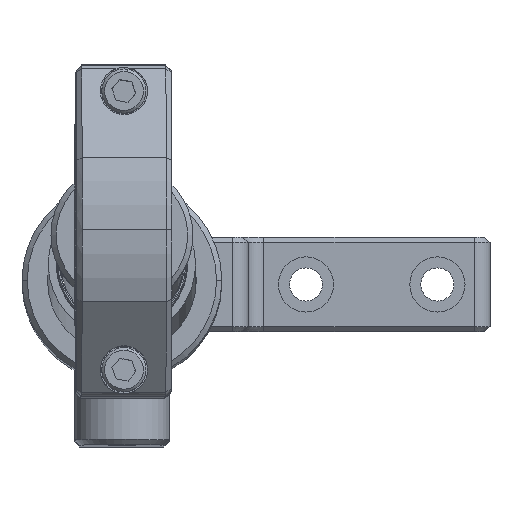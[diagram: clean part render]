
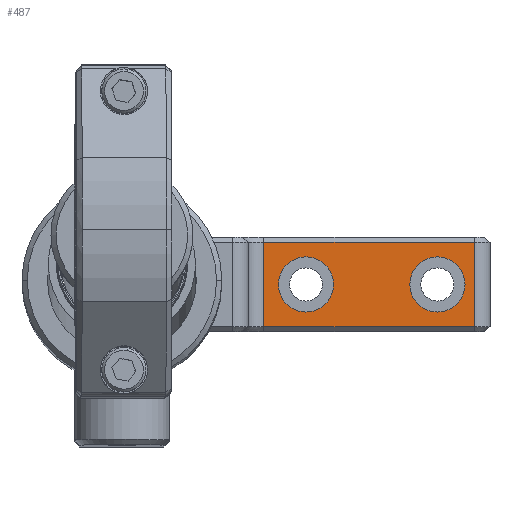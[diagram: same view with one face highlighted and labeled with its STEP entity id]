
A CAD part, left-side view. The second image highlights one B-rep face of the part: STEP entity #487.
In plain terms, the highlighted planar face has unit normal (-1, 0, 0).
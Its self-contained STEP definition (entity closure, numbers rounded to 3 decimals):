
#3 = ORIENTED_EDGE ( 'NONE', *, *, #10527, .T. ) ;
#14 = CARTESIAN_POINT ( 'NONE',  ( 11.406, 5.127, 17. ) ) ;
#38 = EDGE_CURVE ( 'NONE', #19011, #2612, #6075, .T. ) ;
#190 = AXIS2_PLACEMENT_3D ( 'NONE', #4191, #2018, #21133 ) ;
#475 = CARTESIAN_POINT ( 'NONE',  ( 11.406, 5.127, 1. ) ) ;
#487 = ADVANCED_FACE ( 'NONE', ( #4162, #18209, #17098 ), #6347, .F. ) ;
#648 = AXIS2_PLACEMENT_3D ( 'NONE', #20543, #18363, #16188 ) ;
#805 = AXIS2_PLACEMENT_3D ( 'NONE', #5795, #18417, #16238 ) ;
#1009 = CARTESIAN_POINT ( 'NONE',  ( 11.406, -2.873, 9. ) ) ;
#1392 = AXIS2_PLACEMENT_3D ( 'NONE', #1009, #20153, #17953 ) ;
#1518 = LINE ( 'NONE', #20647, #18872 ) ;
#1730 = DIRECTION ( 'NONE',  ( 0., 0., -1. ) ) ;
#2018 = DIRECTION ( 'NONE',  ( 1., 0., 0. ) ) ;
#2139 = CARTESIAN_POINT ( 'NONE',  ( 11.406, -34.873, 1. ) ) ;
#2190 = CARTESIAN_POINT ( 'NONE',  ( 11.406, -2.873, 14.25 ) ) ;
#2612 = VERTEX_POINT ( 'NONE', #475 ) ;
#2912 = VERTEX_POINT ( 'NONE', #8768 ) ;
#3827 = EDGE_CURVE ( 'NONE', #9265, #12631, #1518, .T. ) ;
#3917 = CARTESIAN_POINT ( 'NONE',  ( 11.406, 5.127, 18. ) ) ;
#4162 = FACE_BOUND ( 'NONE', #15553, .T. ) ;
#4191 = CARTESIAN_POINT ( 'NONE',  ( 11.406, -34.873, 18. ) ) ;
#4371 = VECTOR ( 'NONE', #7945, 1000. ) ;
#4970 = CIRCLE ( 'NONE', #1392, 5.25 ) ;
#5166 = CIRCLE ( 'NONE', #12615, 5.25 ) ;
#5272 = CARTESIAN_POINT ( 'NONE',  ( 11.406, -27.873, 3.75 ) ) ;
#5449 = CARTESIAN_POINT ( 'NONE',  ( 11.406, -27.873, 9. ) ) ;
#5795 = CARTESIAN_POINT ( 'NONE',  ( 11.406, -2.873, 9. ) ) ;
#6075 = LINE ( 'NONE', #3917, #18941 ) ;
#6347 = PLANE ( 'NONE',  #190 ) ;
#6864 = VERTEX_POINT ( 'NONE', #10252 ) ;
#7618 = DIRECTION ( 'NONE',  ( 0., -1., 0. ) ) ;
#7945 = DIRECTION ( 'NONE',  ( 0., 1., 0. ) ) ;
#8213 = EDGE_CURVE ( 'NONE', #6864, #11078, #13865, .T. ) ;
#8768 = CARTESIAN_POINT ( 'NONE',  ( 11.406, -27.873, 14.25 ) ) ;
#9265 = VERTEX_POINT ( 'NONE', #15875 ) ;
#9772 = CARTESIAN_POINT ( 'NONE',  ( 11.406, -34.873, 1. ) ) ;
#10109 = CARTESIAN_POINT ( 'NONE',  ( 11.406, 5.127, 17. ) ) ;
#10120 = EDGE_CURVE ( 'NONE', #2912, #14441, #13067, .T. ) ;
#10252 = CARTESIAN_POINT ( 'NONE',  ( 11.406, -2.873, 3.75 ) ) ;
#10527 = EDGE_CURVE ( 'NONE', #9265, #19011, #12305, .T. ) ;
#11078 = VERTEX_POINT ( 'NONE', #2190 ) ;
#11721 = EDGE_CURVE ( 'NONE', #2612, #12631, #11977, .T. ) ;
#11733 = EDGE_CURVE ( 'NONE', #14441, #2912, #5166, .T. ) ;
#11810 = ORIENTED_EDGE ( 'NONE', *, *, #11733, .F. ) ;
#11977 = LINE ( 'NONE', #9772, #12073 ) ;
#12073 = VECTOR ( 'NONE', #7618, 1000. ) ;
#12188 = ORIENTED_EDGE ( 'NONE', *, *, #10120, .F. ) ;
#12305 = LINE ( 'NONE', #10109, #4371 ) ;
#12606 = ORIENTED_EDGE ( 'NONE', *, *, #38, .T. ) ;
#12615 = AXIS2_PLACEMENT_3D ( 'NONE', #5449, #20244, #18043 ) ;
#12631 = VERTEX_POINT ( 'NONE', #2139 ) ;
#12854 = EDGE_LOOP ( 'NONE', ( #14300, #20368 ) ) ;
#13067 = CIRCLE ( 'NONE', #648, 5.25 ) ;
#13280 = ORIENTED_EDGE ( 'NONE', *, *, #11721, .T. ) ;
#13865 = CIRCLE ( 'NONE', #805, 5.25 ) ;
#14300 = ORIENTED_EDGE ( 'NONE', *, *, #16690, .F. ) ;
#14441 = VERTEX_POINT ( 'NONE', #5272 ) ;
#15553 = EDGE_LOOP ( 'NONE', ( #12188, #11810 ) ) ;
#15875 = CARTESIAN_POINT ( 'NONE',  ( 11.406, -34.873, 17. ) ) ;
#16188 = DIRECTION ( 'NONE',  ( 0., 0., 1. ) ) ;
#16238 = DIRECTION ( 'NONE',  ( 0., 0., 1. ) ) ;
#16690 = EDGE_CURVE ( 'NONE', #11078, #6864, #4970, .T. ) ;
#17098 = FACE_OUTER_BOUND ( 'NONE', #18662, .T. ) ;
#17953 = DIRECTION ( 'NONE',  ( 0., 0., 1. ) ) ;
#18043 = DIRECTION ( 'NONE',  ( 0., 0., 1. ) ) ;
#18209 = FACE_BOUND ( 'NONE', #12854, .T. ) ;
#18363 = DIRECTION ( 'NONE',  ( -1., 0., 0. ) ) ;
#18417 = DIRECTION ( 'NONE',  ( -1., 0., 0. ) ) ;
#18475 = DIRECTION ( 'NONE',  ( 0., 0., -1. ) ) ;
#18662 = EDGE_LOOP ( 'NONE', ( #12606, #13280, #20776, #3 ) ) ;
#18872 = VECTOR ( 'NONE', #18475, 1000. ) ;
#18941 = VECTOR ( 'NONE', #1730, 1000. ) ;
#19011 = VERTEX_POINT ( 'NONE', #14 ) ;
#20153 = DIRECTION ( 'NONE',  ( -1., 0., 0. ) ) ;
#20244 = DIRECTION ( 'NONE',  ( -1., 0., 0. ) ) ;
#20368 = ORIENTED_EDGE ( 'NONE', *, *, #8213, .F. ) ;
#20543 = CARTESIAN_POINT ( 'NONE',  ( 11.406, -27.873, 9. ) ) ;
#20647 = CARTESIAN_POINT ( 'NONE',  ( 11.406, -34.873, 18. ) ) ;
#20776 = ORIENTED_EDGE ( 'NONE', *, *, #3827, .F. ) ;
#21133 = DIRECTION ( 'NONE',  ( 0., 1., 0. ) ) ;
